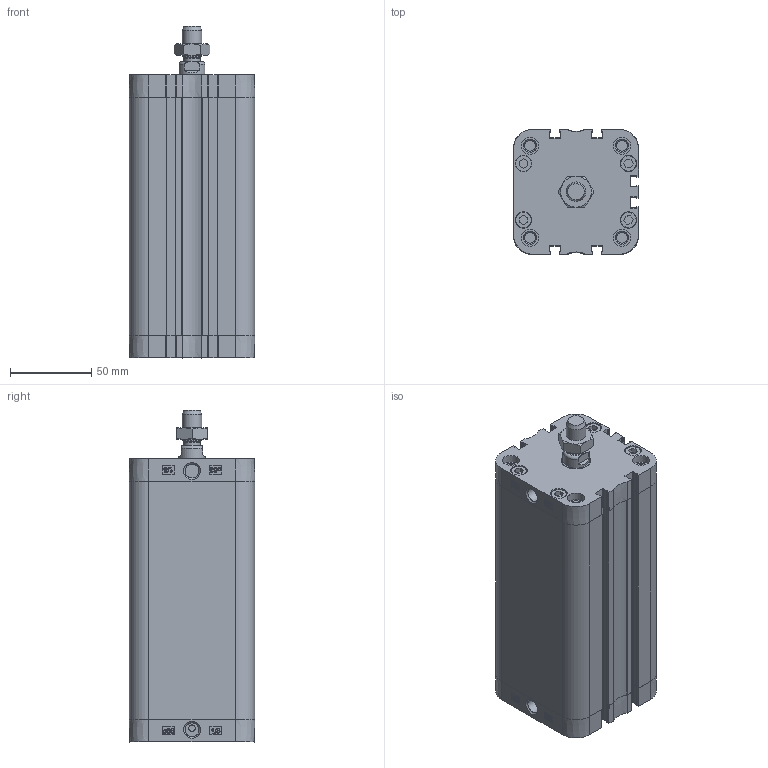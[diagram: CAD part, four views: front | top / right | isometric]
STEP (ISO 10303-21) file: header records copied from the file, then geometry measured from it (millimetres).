
FILE_DESCRIPTION(/* description */ ('Unknown'),/* implementation_level */ '2;1');
FILE_NAME(/* name */ 'ZIF 63_125',/* time_stamp */ '2024-11-12T12:27:31+01:00',/* author */ ('Unknown'),/* organization */ ('HAFNER Pneumatika Kft.'),/* preprocessor_version */ 'ST-DEVELOPER v18.102',/* originating_system */ 'Solid Edge',/* authorisation */ 'Unknown');
FILE_SCHEMA (('AUTOMOTIVE_DESIGN {1 0 10303 214 3 1 1}'));
Length unit declared in the file: millimetre
Products named in the file (6): ZIF 63_125; Kit_1; Kit_2; Profilrohr; Mutter; Kolbenstange
Assembly tree (5 placements, depth 2):
  ZIF 63_125
    Kit_1
    Kit_2
    Profilrohr
    Mutter
    Kolbenstange
Bounding box: 77 x 77 x 204 mm (x, y, z)
Volume: 602102.6 mm3; surface area: 146111.4 mm2
Topology: 5 solids, 5 shells, 758 faces, 2014 edges, 1332 vertices
Faces by surface type: plane 353, cylinder 213, bspline 124, cone 47, torus 21
Full cylindrical faces by diameter (mm): 4 x1, 6.647 x8, 8.566 x2, 9.8 x8, 10 x1, 10.3 x8, 10.5 x8, 10.647 x1, 12 x2, 16 x1, 16.54 x1, 17.7 x1, 18 x1, 20.5 x1, 63 x2
Entity records: 28504 total; most frequent: CARTESIAN_POINT 5979, ORIENTED_EDGE 3802, DIRECTION 3378, EDGE_CURVE 1901, VERTEX_POINT 1311, AXIS2_PLACEMENT_3D 1142, LINE 1094, VECTOR 1094
